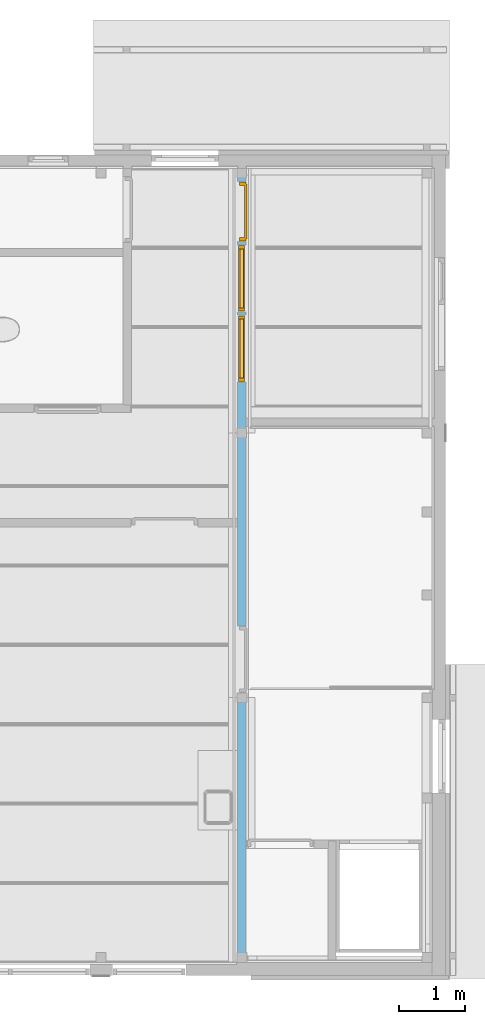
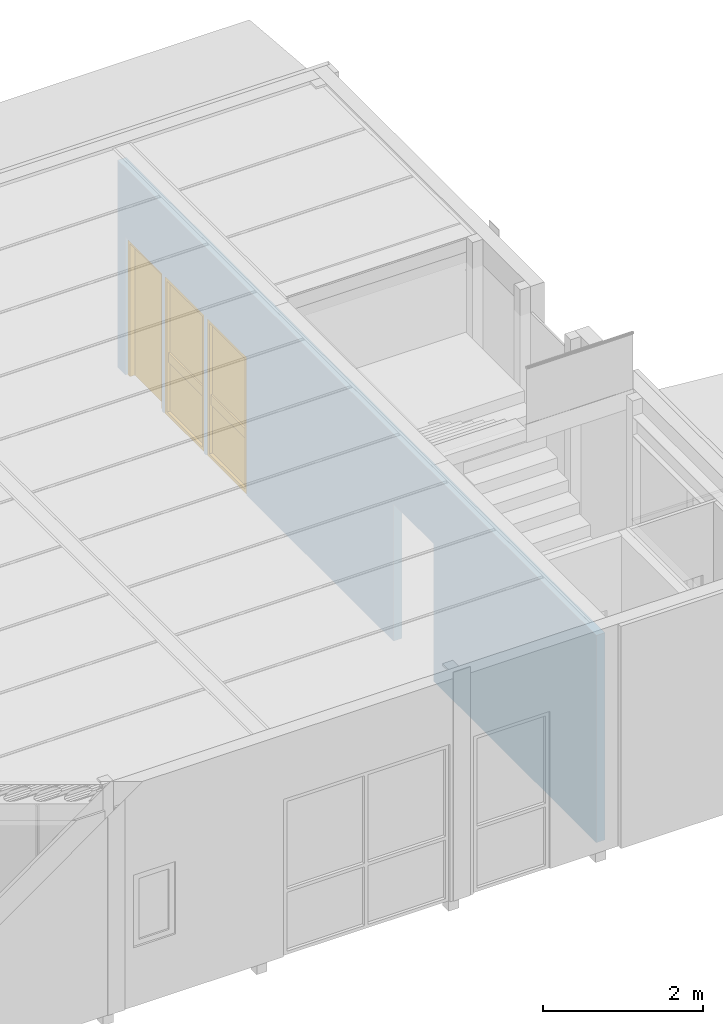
# One storey, part 36 of 45: 2 windows, 1 door, 4 openings, plus 1 element that does not belong to this part.
"""IFC2X3 building model written with IfcOpenShell, lengths in millimetres."""

from ifc_helpers import new_model, entity, si_unit, converted_unit, frame, frame_2d, origin, origin_with_axes, place, context, subcontext, project, spatial, rectangle, extrude, faceted_brep, material, layer, layer_set, layer_usage, type_object, element, fill, save


model = new_model("IFC2X3")

# Units and contexts
model_context = context("Model", 3, precision=1e-05, world=origin())
plan_context = context("Plan", 3, precision=1e-05, world=origin())
body_context = subcontext(model_context, "Body", "Model", "MODEL_VIEW")
ifc_project = project(units=[si_unit("LENGTHUNIT", "METRE", prefix="MILLI"), converted_unit("PLANEANGLEUNIT", "DEGREE", entity("IfcPlaneAngleMeasure", 0.0174532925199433), si_unit("PLANEANGLEUNIT", "RADIAN"), dimensions=[0, 0, 0, 0, 0, 0, 0]), si_unit("AREAUNIT", "SQUARE_METRE"), si_unit("VOLUMEUNIT", "CUBIC_METRE")], contexts=[model_context, plan_context])

# Building, storey
building_placement = place(None, origin())
building = spatial("IfcBuilding", under=ifc_project, at=building_placement, Name="HEKF Administrasjonbygg", CompositionType="ELEMENT")
storey_placement = place(building_placement, frame((0.0, 0.0, 6500.0), z_axis=(0.0, 0.0, 1.0), x_axis=(1.0, 0.0, 0.0)))
storey = spatial("IfcBuildingStorey", under=building, at=storey_placement, Name="Plan 1", CompositionType="ELEMENT", Elevation=6500.0)

# Wall, openings, windows, door
ifc_material_1 = material(Name="gips")
ifc_layer_1 = layer(ifc_material_1, 13.0)
ifc_material_2 = material(Name="riegel stål 100")
ifc_layer_2 = layer(ifc_material_2, 100.0)
ifc_material_3 = material(Name="gips")
ifc_layer_3 = layer(ifc_material_3, 13.0)
ifc_layer_set = layer_set([ifc_layer_1, ifc_layer_2, ifc_layer_3])
ifc_layer_usage = layer_usage(ifc_layer_set, "AXIS2", "POSITIVE", 0.0)
wall_placement = place(storey_placement, frame((27188.53680645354, -12000.0, 0.0), z_axis=(0.0, 0.0, 1.0), x_axis=(0.0, 1.0, 0.0)))
wall = element("IfcWallStandardCase", 1, at=wall_placement, inside=storey, material=ifc_layer_usage, context=body_context, shape_type="SweptSolid", body=[
    extrude(rectangle(XDim=12000.0, YDim=126.0, at=frame_2d((6000.0, 63.0), x_axis=(1.0, 0.0))), origin_with_axes(), (0.0, 0.0, 1.0), 3170.0),
])
opening_1_placement = place(wall_placement, frame((9830.0, 0.0, 0.0), z_axis=(0.0, 1.0, 0.0), x_axis=(0.0, 0.0, 1.0)))
opening_1 = element("IfcOpeningElement", 2, at=opening_1_placement, cuts=wall, Name="GF001", ObjectType="Opening", context=body_context, shape_type="SweptSolid", body=[
    extrude(rectangle(XDim=2110.0, YDim=1010.0, at=frame_2d((1055.0, 505.0), x_axis=(1.0, 0.0))), origin_with_axes(), (0.0, 0.0, 1.0), 126.0),
])
opening_2_placement = place(wall_placement, frame((8770.0, 0.0, 0.0), z_axis=(0.0, 1.0, 0.0), x_axis=(0.0, 0.0, 1.0)))
opening_2 = element("IfcOpeningElement", 3, at=opening_2_placement, cuts=wall, Name="GF002", ObjectType="Opening", context=body_context, shape_type="SweptSolid", body=[
    extrude(rectangle(XDim=2110.0, YDim=1010.0, at=frame_2d((1055.0, 505.0), x_axis=(1.0, 0.0))), origin_with_axes(), (0.0, 0.0, 1.0), 126.0),
])
opening_3_placement = place(wall_placement, frame((10890.0, 0.0, 0.0), z_axis=(0.0, 1.0, 0.0), x_axis=(0.0, 0.0, 1.0)))
opening_3 = element("IfcOpeningElement", 4, at=opening_3_placement, cuts=wall, Name="Door opening", ObjectType="Opening", context=body_context, shape_type="SweptSolid", body=[
    extrude(rectangle(XDim=2110.0, YDim=910.0, at=frame_2d((1055.0, 455.0), x_axis=(1.0, 0.0))), origin_with_axes(), (0.0, 0.0, 1.0), 126.0),
])
opening_4_placement = place(wall_placement, frame((4075.0, 0.0, 0.0), z_axis=(0.0, 1.0, 0.0), x_axis=(0.0, 0.0, 1.0)))
element("IfcOpeningElement", 5, at=opening_4_placement, cuts=wall, Name="Door opening", ObjectType="Opening", context=body_context, shape_type="SweptSolid", body=[
    extrude(rectangle(XDim=2100.0, YDim=1010.0, at=frame_2d((1050.0, 505.0), x_axis=(1.0, 0.0))), origin_with_axes(), (0.0, 0.0, 1.0), 126.0),
])
ifc_material_4 = material()
window_style_1 = type_object("IfcWindowStyle", Name="IV001", ConstructionType="NOTDEFINED", OperationType="USERDEFINED", ParameterTakesPrecedence=False, Sizeable=False)
window_1_placement = place(opening_1_placement, frame((0.0, 0.0, 0.0), z_axis=(1.0, 0.0, 0.0), x_axis=(0.0, 1.0, 0.0)))
window_1 = element("IfcWindow", 6, at=window_1_placement, inside=storey, type_object=window_style_1, material=ifc_material_4, Name="IV001", OverallHeight=2110.0, OverallWidth=1010.0, context=body_context, shape_type="Brep", body=[
    faceted_brep([(10.00000000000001, 19.99999999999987, 2100.0), (60.00000000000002, 19.99999999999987, 2100.0), (60.00000000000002, 20.0, -2.816687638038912e-15), (10.00000000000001, 20.0, -2.816687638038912e-15), (10.0, 112.0, 2.816687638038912e-15), (60.00000000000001, 112.0, 2.816687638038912e-15), (60.00000000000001, 111.9999999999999, 2100.0), (10.0, 111.9999999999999, 2100.0), (10.00000000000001, 20.0, -2.816687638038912e-15), (10.0, 112.0, 2.816687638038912e-15), (10.0, 111.9999999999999, 2100.0), (10.00000000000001, 19.99999999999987, 2100.0), (60.00000000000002, 20.0, -2.816687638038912e-15), (60.00000000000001, 112.0, 2.816687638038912e-15), (10.0, 112.0, 2.816687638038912e-15), (10.00000000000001, 20.0, -2.816687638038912e-15), (60.00000000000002, 19.99999999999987, 2100.0), (60.00000000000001, 111.9999999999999, 2100.0), (60.00000000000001, 112.0, 2.816687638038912e-15), (60.00000000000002, 20.0, -2.816687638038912e-15), (10.00000000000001, 19.99999999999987, 2100.0), (10.0, 111.9999999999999, 2100.0), (60.00000000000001, 111.9999999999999, 2100.0), (60.00000000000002, 19.99999999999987, 2100.0)], [[[0, 1, 2, 3]], [[4, 5, 6, 7]], [[8, 9, 10, 11]], [[12, 13, 14, 15]], [[16, 17, 18, 19]], [[20, 21, 22, 23]]], orient=[[False], [False], [False], [False], [False], [False]]),
    faceted_brep([(950.0000000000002, 19.99999999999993, 2100.0), (1000.0, 19.99999999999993, 2100.0), (1000.0, 20.00000000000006, -2.816687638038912e-15), (950.0000000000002, 20.00000000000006, -2.816687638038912e-15), (950.0000000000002, 112.0000000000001, 2.816687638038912e-15), (1000.0, 112.0000000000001, 2.816687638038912e-15), (1000.0, 111.9999999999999, 2100.0), (950.0000000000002, 111.9999999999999, 2100.0), (950.0000000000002, 20.00000000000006, -2.816687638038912e-15), (950.0000000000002, 112.0000000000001, 2.816687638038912e-15), (950.0000000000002, 111.9999999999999, 2100.0), (950.0000000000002, 19.99999999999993, 2100.0), (1000.0, 20.00000000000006, -2.816687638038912e-15), (1000.0, 112.0000000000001, 2.816687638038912e-15), (950.0000000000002, 112.0000000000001, 2.816687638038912e-15), (950.0000000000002, 20.00000000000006, -2.816687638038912e-15), (1000.0, 19.99999999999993, 2100.0), (1000.0, 111.9999999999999, 2100.0), (1000.0, 112.0000000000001, 2.816687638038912e-15), (1000.0, 20.00000000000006, -2.816687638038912e-15), (950.0000000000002, 19.99999999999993, 2100.0), (950.0000000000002, 111.9999999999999, 2100.0), (1000.0, 111.9999999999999, 2100.0), (1000.0, 19.99999999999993, 2100.0)], [[[0, 1, 2, 3]], [[4, 5, 6, 7]], [[8, 9, 10, 11]], [[12, 13, 14, 15]], [[16, 17, 18, 19]], [[20, 21, 22, 23]]], orient=[[False], [False], [False], [False], [False], [False]]),
    faceted_brep([(60.00000000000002, 20.0, 50.0), (950.0000000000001, 20.00000000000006, 50.0), (950.0000000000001, 20.00000000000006, -2.816687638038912e-15), (60.00000000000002, 20.0, -2.816687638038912e-15), (60.00000000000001, 112.0, 2.816687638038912e-15), (950.0000000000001, 112.0000000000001, 2.816687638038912e-15), (950.0000000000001, 112.0000000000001, 50.00000000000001), (60.00000000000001, 112.0, 50.00000000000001), (60.00000000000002, 20.0, -2.816687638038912e-15), (60.00000000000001, 112.0, 2.816687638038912e-15), (60.00000000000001, 112.0, 50.00000000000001), (60.00000000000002, 20.0, 50.0), (950.0000000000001, 20.00000000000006, -2.816687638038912e-15), (950.0000000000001, 112.0000000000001, 2.816687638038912e-15), (60.00000000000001, 112.0, 2.816687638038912e-15), (60.00000000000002, 20.0, -2.816687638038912e-15), (950.0000000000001, 20.00000000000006, 50.0), (950.0000000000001, 112.0000000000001, 50.00000000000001), (950.0000000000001, 112.0000000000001, 2.816687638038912e-15), (950.0000000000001, 20.00000000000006, -2.816687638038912e-15), (60.00000000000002, 20.0, 50.0), (60.00000000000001, 112.0, 50.00000000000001), (950.0000000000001, 112.0000000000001, 50.00000000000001), (950.0000000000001, 20.00000000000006, 50.0)], [[[0, 1, 2, 3]], [[4, 5, 6, 7]], [[8, 9, 10, 11]], [[12, 13, 14, 15]], [[16, 17, 18, 19]], [[20, 21, 22, 23]]], orient=[[False], [False], [False], [False], [False], [False]]),
    faceted_brep([(60.00000000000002, 19.99999999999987, 2100.000000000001), (950.0000000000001, 19.99999999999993, 2100.000000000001), (950.0000000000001, 19.99999999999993, 2050.000000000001), (60.00000000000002, 19.99999999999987, 2050.000000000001), (60.00000000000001, 111.9999999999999, 2050.000000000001), (950.0000000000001, 111.9999999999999, 2050.000000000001), (950.0000000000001, 111.9999999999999, 2100.000000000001), (60.00000000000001, 111.9999999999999, 2100.000000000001), (60.00000000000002, 19.99999999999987, 2050.000000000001), (60.00000000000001, 111.9999999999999, 2050.000000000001), (60.00000000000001, 111.9999999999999, 2100.000000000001), (60.00000000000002, 19.99999999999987, 2100.000000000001), (950.0000000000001, 19.99999999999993, 2050.000000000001), (950.0000000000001, 111.9999999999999, 2050.000000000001), (60.00000000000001, 111.9999999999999, 2050.000000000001), (60.00000000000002, 19.99999999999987, 2050.000000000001), (950.0000000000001, 19.99999999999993, 2100.000000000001), (950.0000000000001, 111.9999999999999, 2100.000000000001), (950.0000000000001, 111.9999999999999, 2050.000000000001), (950.0000000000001, 19.99999999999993, 2050.000000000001), (60.00000000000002, 19.99999999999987, 2100.000000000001), (60.00000000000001, 111.9999999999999, 2100.000000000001), (950.0000000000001, 111.9999999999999, 2100.000000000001), (950.0000000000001, 19.99999999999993, 2100.000000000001)], [[[0, 1, 2, 3]], [[4, 5, 6, 7]], [[8, 9, 10, 11]], [[12, 13, 14, 15]], [[16, 17, 18, 19]], [[20, 21, 22, 23]]], orient=[[False], [False], [False], [False], [False], [False]]),
    faceted_brep([(60.00000000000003, 40.99999999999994, 950.0), (950.0000000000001, 41.0, 950.0), (950.0000000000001, 41.00000000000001, 800.0), (60.00000000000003, 40.99999999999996, 800.0), (60.00000000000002, 90.99999999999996, 800.0), (950.0000000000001, 91.00000000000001, 800.0), (950.0000000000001, 91.0, 950.0), (60.00000000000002, 90.99999999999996, 950.0), (60.00000000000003, 40.99999999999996, 800.0), (60.00000000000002, 90.99999999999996, 800.0), (60.00000000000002, 90.99999999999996, 950.0), (60.00000000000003, 40.99999999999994, 950.0), (950.0000000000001, 41.00000000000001, 800.0), (950.0000000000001, 91.00000000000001, 800.0), (60.00000000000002, 90.99999999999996, 800.0), (60.00000000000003, 40.99999999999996, 800.0), (950.0000000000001, 41.0, 950.0), (950.0000000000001, 91.0, 950.0), (950.0000000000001, 91.00000000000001, 800.0), (950.0000000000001, 41.00000000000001, 800.0), (60.00000000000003, 40.99999999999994, 950.0), (60.00000000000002, 90.99999999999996, 950.0), (950.0000000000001, 91.0, 950.0), (950.0000000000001, 41.0, 950.0)], [[[0, 1, 2, 3]], [[4, 5, 6, 7]], [[8, 9, 10, 11]], [[12, 13, 14, 15]], [[16, 17, 18, 19]], [[20, 21, 22, 23]]], orient=[[False], [False], [False], [False], [False], [False]]),
    faceted_brep([(60.00000000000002, 66.0, 50.0), (60.00000000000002, 65.99999999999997, 800.0), (950.0000000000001, 66.00000000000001, 800.0), (950.0000000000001, 66.00000000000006, 50.0), (60.00000000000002, 67.0, 50.0), (950.0000000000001, 67.00000000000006, 50.0), (950.0000000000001, 67.00000000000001, 800.0), (60.00000000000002, 66.99999999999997, 800.0), (60.00000000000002, 66.0, 50.0), (60.00000000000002, 67.0, 50.0), (60.00000000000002, 66.99999999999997, 800.0), (60.00000000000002, 65.99999999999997, 800.0), (60.00000000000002, 65.99999999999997, 800.0), (60.00000000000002, 66.99999999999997, 800.0), (950.0000000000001, 67.00000000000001, 800.0), (950.0000000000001, 66.00000000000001, 800.0), (950.0000000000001, 66.00000000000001, 800.0), (950.0000000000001, 67.00000000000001, 800.0), (950.0000000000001, 67.00000000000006, 50.0), (950.0000000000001, 66.00000000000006, 50.0), (950.0000000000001, 66.00000000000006, 50.0), (950.0000000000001, 67.00000000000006, 50.0), (60.00000000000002, 67.0, 50.0), (60.00000000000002, 66.0, 50.0)], [[[0, 1, 2, 3]], [[4, 5, 6, 7]], [[8, 9, 10, 11]], [[12, 13, 14, 15]], [[16, 17, 18, 19]], [[20, 21, 22, 23]]], orient=[[False], [False], [False], [False], [False], [False]]),
    faceted_brep([(60.00000000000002, 65.99999999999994, 950.0000000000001), (60.00000000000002, 65.99999999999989, 2050.000000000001), (950.0000000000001, 65.99999999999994, 2050.000000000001), (950.0000000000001, 66.0, 950.0000000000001), (60.00000000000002, 66.99999999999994, 950.0000000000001), (950.0000000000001, 67.0, 950.0000000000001), (950.0000000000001, 66.99999999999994, 2050.000000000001), (60.00000000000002, 66.99999999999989, 2050.000000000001), (60.00000000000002, 65.99999999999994, 950.0000000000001), (60.00000000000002, 66.99999999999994, 950.0000000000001), (60.00000000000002, 66.99999999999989, 2050.000000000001), (60.00000000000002, 65.99999999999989, 2050.000000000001), (60.00000000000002, 65.99999999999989, 2050.000000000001), (60.00000000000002, 66.99999999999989, 2050.000000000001), (950.0000000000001, 66.99999999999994, 2050.000000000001), (950.0000000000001, 65.99999999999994, 2050.000000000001), (950.0000000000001, 65.99999999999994, 2050.000000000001), (950.0000000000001, 66.99999999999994, 2050.000000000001), (950.0000000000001, 67.0, 950.0000000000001), (950.0000000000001, 66.0, 950.0000000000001), (950.0000000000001, 66.0, 950.0000000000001), (950.0000000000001, 67.0, 950.0000000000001), (60.00000000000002, 66.99999999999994, 950.0000000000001), (60.00000000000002, 65.99999999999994, 950.0000000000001)], [[[0, 1, 2, 3]], [[4, 5, 6, 7]], [[8, 9, 10, 11]], [[12, 13, 14, 15]], [[16, 17, 18, 19]], [[20, 21, 22, 23]]], orient=[[False], [False], [False], [False], [False], [False]]),
])
fill(opening_1, window_1)
ifc_material_5 = material()
window_style_2 = type_object("IfcWindowStyle", Name="IV002", ConstructionType="NOTDEFINED", OperationType="USERDEFINED", ParameterTakesPrecedence=False, Sizeable=False)
window_2_placement = place(opening_2_placement, frame((0.0, 0.0, 0.0), z_axis=(1.0, 0.0, 0.0), x_axis=(0.0, 1.0, 0.0)))
window_2 = element("IfcWindow", 7, at=window_2_placement, inside=storey, type_object=window_style_2, material=ifc_material_5, Name="IV002", OverallHeight=2110.0, OverallWidth=1010.0, context=body_context, shape_type="Brep", body=[
    faceted_brep([(1000.0, 19.99999999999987, 2100.0), (1000.0, 20.0, -2.816687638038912e-15), (950.0, 20.0, -2.816687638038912e-15), (950.0, 19.99999999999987, 2100.0), (1000.0, 112.0, 2.816687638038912e-15), (1000.0, 111.9999999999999, 2100.0), (950.0, 111.9999999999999, 2100.0), (950.0, 112.0, 2.816687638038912e-15), (1000.0, 20.0, -2.816687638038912e-15), (1000.0, 19.99999999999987, 2100.0), (1000.0, 111.9999999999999, 2100.0), (1000.0, 112.0, 2.816687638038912e-15), (950.0, 20.0, -2.816687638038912e-15), (1000.0, 20.0, -2.816687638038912e-15), (1000.0, 112.0, 2.816687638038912e-15), (950.0, 112.0, 2.816687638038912e-15), (950.0, 19.99999999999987, 2100.0), (950.0, 20.0, -2.816687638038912e-15), (950.0, 112.0, 2.816687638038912e-15), (950.0, 111.9999999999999, 2100.0), (1000.0, 19.99999999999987, 2100.0), (950.0, 19.99999999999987, 2100.0), (950.0, 111.9999999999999, 2100.0), (1000.0, 111.9999999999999, 2100.0)], [[[0, 1, 2, 3]], [[4, 5, 6, 7]], [[8, 9, 10, 11]], [[12, 13, 14, 15]], [[16, 17, 18, 19]], [[20, 21, 22, 23]]], orient=[[False], [False], [False], [False], [False], [False]]),
    faceted_brep([(60.0, 19.99999999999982, 2100.0), (60.0, 19.99999999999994, -2.816687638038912e-15), (10.0, 19.99999999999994, -2.816687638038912e-15), (10.0, 19.99999999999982, 2100.0), (60.0, 111.9999999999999, 2.816687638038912e-15), (60.0, 111.9999999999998, 2100.0), (10.0, 111.9999999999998, 2100.0), (10.0, 111.9999999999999, 2.816687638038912e-15), (60.0, 19.99999999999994, -2.816687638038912e-15), (60.0, 19.99999999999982, 2100.0), (60.0, 111.9999999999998, 2100.0), (60.0, 111.9999999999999, 2.816687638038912e-15), (10.0, 19.99999999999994, -2.816687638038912e-15), (60.0, 19.99999999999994, -2.816687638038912e-15), (60.0, 111.9999999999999, 2.816687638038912e-15), (10.0, 111.9999999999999, 2.816687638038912e-15), (10.0, 19.99999999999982, 2100.0), (10.0, 19.99999999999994, -2.816687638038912e-15), (10.0, 111.9999999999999, 2.816687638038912e-15), (10.0, 111.9999999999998, 2100.0), (60.0, 19.99999999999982, 2100.0), (10.0, 19.99999999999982, 2100.0), (10.0, 111.9999999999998, 2100.0), (60.0, 111.9999999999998, 2100.0)], [[[0, 1, 2, 3]], [[4, 5, 6, 7]], [[8, 9, 10, 11]], [[12, 13, 14, 15]], [[16, 17, 18, 19]], [[20, 21, 22, 23]]], orient=[[False], [False], [False], [False], [False], [False]]),
    faceted_brep([(950.0, 20.0, 50.0), (950.0, 20.0, -2.816687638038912e-15), (60.00000000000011, 19.99999999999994, -2.816687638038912e-15), (60.00000000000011, 19.99999999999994, 50.0), (950.0, 112.0, 2.816687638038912e-15), (950.0, 112.0, 50.00000000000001), (60.00000000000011, 111.9999999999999, 50.00000000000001), (60.00000000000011, 111.9999999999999, 2.816687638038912e-15), (950.0, 20.0, -2.816687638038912e-15), (950.0, 20.0, 50.0), (950.0, 112.0, 50.00000000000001), (950.0, 112.0, 2.816687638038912e-15), (60.00000000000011, 19.99999999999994, -2.816687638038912e-15), (950.0, 20.0, -2.816687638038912e-15), (950.0, 112.0, 2.816687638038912e-15), (60.00000000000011, 111.9999999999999, 2.816687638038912e-15), (60.00000000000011, 19.99999999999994, 50.0), (60.00000000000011, 19.99999999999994, -2.816687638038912e-15), (60.00000000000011, 111.9999999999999, 2.816687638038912e-15), (60.00000000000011, 111.9999999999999, 50.00000000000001), (950.0, 20.0, 50.0), (60.00000000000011, 19.99999999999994, 50.0), (60.00000000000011, 111.9999999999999, 50.00000000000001), (950.0, 112.0, 50.00000000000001)], [[[0, 1, 2, 3]], [[4, 5, 6, 7]], [[8, 9, 10, 11]], [[12, 13, 14, 15]], [[16, 17, 18, 19]], [[20, 21, 22, 23]]], orient=[[False], [False], [False], [False], [False], [False]]),
    faceted_brep([(950.0, 19.99999999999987, 2100.000000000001), (950.0, 19.99999999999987, 2050.000000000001), (60.00000000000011, 19.99999999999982, 2050.000000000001), (60.00000000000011, 19.99999999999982, 2100.000000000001), (950.0, 111.9999999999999, 2050.000000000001), (950.0, 111.9999999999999, 2100.000000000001), (60.00000000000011, 111.9999999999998, 2100.000000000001), (60.00000000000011, 111.9999999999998, 2050.000000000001), (950.0, 19.99999999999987, 2050.000000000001), (950.0, 19.99999999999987, 2100.000000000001), (950.0, 111.9999999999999, 2100.000000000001), (950.0, 111.9999999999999, 2050.000000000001), (60.00000000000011, 19.99999999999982, 2050.000000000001), (950.0, 19.99999999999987, 2050.000000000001), (950.0, 111.9999999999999, 2050.000000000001), (60.00000000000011, 111.9999999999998, 2050.000000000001), (60.00000000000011, 19.99999999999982, 2100.000000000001), (60.00000000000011, 19.99999999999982, 2050.000000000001), (60.00000000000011, 111.9999999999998, 2050.000000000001), (60.00000000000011, 111.9999999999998, 2100.000000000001), (950.0, 19.99999999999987, 2100.000000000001), (60.00000000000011, 19.99999999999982, 2100.000000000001), (60.00000000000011, 111.9999999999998, 2100.000000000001), (950.0, 111.9999999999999, 2100.000000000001)], [[[0, 1, 2, 3]], [[4, 5, 6, 7]], [[8, 9, 10, 11]], [[12, 13, 14, 15]], [[16, 17, 18, 19]], [[20, 21, 22, 23]]], orient=[[False], [False], [False], [False], [False], [False]]),
    faceted_brep([(950.0, 40.99999999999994, 950.0), (950.0, 40.99999999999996, 800.0), (60.00000000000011, 40.9999999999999, 800.0), (60.00000000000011, 40.99999999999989, 950.0), (950.0, 90.99999999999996, 800.0), (950.0, 90.99999999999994, 950.0), (60.00000000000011, 90.99999999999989, 950.0), (60.00000000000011, 90.9999999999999, 800.0), (950.0, 40.99999999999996, 800.0), (950.0, 40.99999999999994, 950.0), (950.0, 90.99999999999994, 950.0), (950.0, 90.99999999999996, 800.0), (60.00000000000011, 40.9999999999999, 800.0), (950.0, 40.99999999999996, 800.0), (950.0, 90.99999999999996, 800.0), (60.00000000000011, 90.9999999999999, 800.0), (60.00000000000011, 40.99999999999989, 950.0), (60.00000000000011, 40.9999999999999, 800.0), (60.00000000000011, 90.9999999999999, 800.0), (60.00000000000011, 90.99999999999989, 950.0), (950.0, 40.99999999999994, 950.0), (60.00000000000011, 40.99999999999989, 950.0), (60.00000000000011, 90.99999999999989, 950.0), (950.0, 90.99999999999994, 950.0)], [[[0, 1, 2, 3]], [[4, 5, 6, 7]], [[8, 9, 10, 11]], [[12, 13, 14, 15]], [[16, 17, 18, 19]], [[20, 21, 22, 23]]], orient=[[False], [False], [False], [False], [False], [False]]),
    faceted_brep([(950.0, 66.0, 50.0), (60.00000000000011, 65.99999999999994, 50.0), (60.00000000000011, 65.9999999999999, 800.0), (950.0, 65.99999999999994, 800.0), (950.0, 67.0, 50.0), (950.0, 66.99999999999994, 800.0), (60.00000000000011, 66.9999999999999, 800.0), (60.00000000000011, 66.99999999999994, 50.0), (950.0, 66.0, 50.0), (950.0, 67.0, 50.0), (60.00000000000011, 66.99999999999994, 50.0), (60.00000000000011, 65.99999999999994, 50.0), (60.00000000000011, 65.99999999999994, 50.0), (60.00000000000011, 66.99999999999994, 50.0), (60.00000000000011, 66.9999999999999, 800.0), (60.00000000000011, 65.9999999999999, 800.0), (60.00000000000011, 65.9999999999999, 800.0), (60.00000000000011, 66.9999999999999, 800.0), (950.0, 66.99999999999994, 800.0), (950.0, 65.99999999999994, 800.0), (950.0, 65.99999999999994, 800.0), (950.0, 66.99999999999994, 800.0), (950.0, 67.0, 50.0), (950.0, 66.0, 50.0)], [[[0, 1, 2, 3]], [[4, 5, 6, 7]], [[8, 9, 10, 11]], [[12, 13, 14, 15]], [[16, 17, 18, 19]], [[20, 21, 22, 23]]], orient=[[False], [False], [False], [False], [False], [False]]),
    faceted_brep([(950.0, 65.99999999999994, 950.0000000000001), (60.00000000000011, 65.99999999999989, 950.0000000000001), (60.00000000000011, 65.99999999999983, 2050.000000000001), (950.0, 65.99999999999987, 2050.000000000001), (950.0, 66.99999999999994, 950.0000000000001), (950.0, 66.99999999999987, 2050.000000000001), (60.00000000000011, 66.99999999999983, 2050.000000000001), (60.00000000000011, 66.99999999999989, 950.0000000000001), (950.0, 65.99999999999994, 950.0000000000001), (950.0, 66.99999999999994, 950.0000000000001), (60.00000000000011, 66.99999999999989, 950.0000000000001), (60.00000000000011, 65.99999999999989, 950.0000000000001), (60.00000000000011, 65.99999999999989, 950.0000000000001), (60.00000000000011, 66.99999999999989, 950.0000000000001), (60.00000000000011, 66.99999999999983, 2050.000000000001), (60.00000000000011, 65.99999999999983, 2050.000000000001), (60.00000000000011, 65.99999999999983, 2050.000000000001), (60.00000000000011, 66.99999999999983, 2050.000000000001), (950.0, 66.99999999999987, 2050.000000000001), (950.0, 65.99999999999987, 2050.000000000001), (950.0, 65.99999999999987, 2050.000000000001), (950.0, 66.99999999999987, 2050.000000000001), (950.0, 66.99999999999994, 950.0000000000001), (950.0, 65.99999999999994, 950.0000000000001)], [[[0, 1, 2, 3]], [[4, 5, 6, 7]], [[8, 9, 10, 11]], [[12, 13, 14, 15]], [[16, 17, 18, 19]], [[20, 21, 22, 23]]], orient=[[False], [False], [False], [False], [False], [False]]),
])
fill(opening_2, window_2)
ifc_material_6 = material()
door_style = type_object("IfcDoorStyle", Name="D027", ConstructionType="NOTDEFINED", OperationType="USERDEFINED", ParameterTakesPrecedence=False, Sizeable=False)
door_placement = place(opening_3_placement, frame((0.0, 0.0, 0.0), z_axis=(1.0, 0.0, 0.0), x_axis=(0.0, 1.0, 0.0)))
door = element("IfcDoor", 8, at=door_placement, inside=storey, type_object=door_style, material=ifc_material_6, Name="D027", OverallHeight=2110.0, OverallWidth=910.0, context=body_context, shape_type="Brep", body=[
    faceted_brep([(10.0, 96.00000000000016, 2090.0), (10.0, 96.00000000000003, -2.816687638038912e-15), (60.0, 96.00000000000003, -2.816687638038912e-15), (60.0, 96.00000000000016, 2090.0), (10.0, 4.000000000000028, 2.816687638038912e-15), (10.0, 4.000000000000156, 2090.0), (60.0, 4.000000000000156, 2090.0), (60.0, 4.000000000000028, 2.816687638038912e-15), (10.0, 96.00000000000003, -2.816687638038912e-15), (10.0, 96.00000000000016, 2090.0), (10.0, 4.000000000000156, 2090.0), (10.0, 4.000000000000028, 2.816687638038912e-15), (60.0, 96.00000000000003, -2.816687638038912e-15), (10.0, 96.00000000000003, -2.816687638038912e-15), (10.0, 4.000000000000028, 2.816687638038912e-15), (60.0, 4.000000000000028, 2.816687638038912e-15), (60.0, 96.00000000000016, 2090.0), (60.0, 96.00000000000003, -2.816687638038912e-15), (60.0, 4.000000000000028, 2.816687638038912e-15), (60.0, 4.000000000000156, 2090.0), (10.0, 96.00000000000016, 2090.0), (60.0, 96.00000000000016, 2090.0), (60.0, 4.000000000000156, 2090.0), (10.0, 4.000000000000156, 2090.0)], [[[0, 1, 2, 3]], [[4, 5, 6, 7]], [[8, 9, 10, 11]], [[12, 13, 14, 15]], [[16, 17, 18, 19]], [[20, 21, 22, 23]]], orient=[[False], [False], [False], [False], [False], [False]]),
    faceted_brep([(850.0, 96.00000000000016, 2090.0), (850.0, 96.00000000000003, -2.816687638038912e-15), (900.0, 96.00000000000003, -2.816687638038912e-15), (900.0, 96.00000000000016, 2090.0), (850.0, 4.000000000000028, 2.816687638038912e-15), (850.0, 4.000000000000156, 2090.0), (900.0, 4.000000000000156, 2090.0), (900.0, 4.000000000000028, 2.816687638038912e-15), (850.0, 96.00000000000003, -2.816687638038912e-15), (850.0, 96.00000000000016, 2090.0), (850.0, 4.000000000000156, 2090.0), (850.0, 4.000000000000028, 2.816687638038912e-15), (900.0, 96.00000000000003, -2.816687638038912e-15), (850.0, 96.00000000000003, -2.816687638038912e-15), (850.0, 4.000000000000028, 2.816687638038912e-15), (900.0, 4.000000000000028, 2.816687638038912e-15), (900.0, 96.00000000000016, 2090.0), (900.0, 96.00000000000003, -2.816687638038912e-15), (900.0, 4.000000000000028, 2.816687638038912e-15), (900.0, 4.000000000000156, 2090.0), (850.0, 96.00000000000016, 2090.0), (900.0, 96.00000000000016, 2090.0), (900.0, 4.000000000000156, 2090.0), (850.0, 4.000000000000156, 2090.0)], [[[0, 1, 2, 3]], [[4, 5, 6, 7]], [[8, 9, 10, 11]], [[12, 13, 14, 15]], [[16, 17, 18, 19]], [[20, 21, 22, 23]]], orient=[[False], [False], [False], [False], [False], [False]]),
    faceted_brep([(60.0, 96.00000000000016, 2090.0), (60.0, 96.00000000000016, 2040.0), (849.9999999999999, 96.00000000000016, 2040.0), (849.9999999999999, 96.00000000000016, 2090.0), (60.0, 4.000000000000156, 2040.0), (60.0, 4.000000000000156, 2090.0), (849.9999999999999, 4.000000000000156, 2090.0), (849.9999999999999, 4.000000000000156, 2040.0), (60.0, 96.00000000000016, 2040.0), (60.0, 96.00000000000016, 2090.0), (60.0, 4.000000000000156, 2090.0), (60.0, 4.000000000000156, 2040.0), (849.9999999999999, 96.00000000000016, 2040.0), (60.0, 96.00000000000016, 2040.0), (60.0, 4.000000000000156, 2040.0), (849.9999999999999, 4.000000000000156, 2040.0), (849.9999999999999, 96.00000000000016, 2090.0), (849.9999999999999, 96.00000000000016, 2040.0), (849.9999999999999, 4.000000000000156, 2040.0), (849.9999999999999, 4.000000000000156, 2090.0), (60.0, 96.00000000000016, 2090.0), (849.9999999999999, 96.00000000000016, 2090.0), (849.9999999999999, 4.000000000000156, 2090.0), (60.0, 4.000000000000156, 2090.0)], [[[0, 1, 2, 3]], [[4, 5, 6, 7]], [[8, 9, 10, 11]], [[12, 13, 14, 15]], [[16, 17, 18, 19]], [[20, 21, 22, 23]]], orient=[[False], [False], [False], [False], [False], [False]]),
    faceted_brep([(40.00000000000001, 24.00000000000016, 2060.0), (40.00000000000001, 24.00000000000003, 1.592040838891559e-15), (870.0, 24.00000000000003, 1.592040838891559e-15), (870.0, 24.00000000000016, 2060.0), (40.00000000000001, -15.99999999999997, 4.041334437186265e-15), (40.00000000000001, -15.99999999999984, 2060.0), (870.0, -15.99999999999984, 2060.0), (870.0, -15.99999999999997, 4.041334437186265e-15), (40.00000000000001, 24.00000000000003, 1.592040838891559e-15), (40.00000000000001, 24.00000000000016, 2060.0), (40.00000000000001, -15.99999999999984, 2060.0), (40.00000000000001, -15.99999999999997, 4.041334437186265e-15), (870.0, 24.00000000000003, 1.592040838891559e-15), (40.00000000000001, 24.00000000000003, 1.592040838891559e-15), (40.00000000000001, -15.99999999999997, 4.041334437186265e-15), (870.0, -15.99999999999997, 4.041334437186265e-15), (870.0, 24.00000000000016, 2060.0), (870.0, 24.00000000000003, 1.592040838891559e-15), (870.0, -15.99999999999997, 4.041334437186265e-15), (870.0, -15.99999999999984, 2060.0), (40.00000000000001, 24.00000000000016, 2060.0), (870.0, 24.00000000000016, 2060.0), (870.0, -15.99999999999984, 2060.0), (40.00000000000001, -15.99999999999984, 2060.0)], [[[0, 1, 2, 3]], [[4, 5, 6, 7]], [[8, 9, 10, 11]], [[12, 13, 14, 15]], [[16, 17, 18, 19]], [[20, 21, 22, 23]]], orient=[[False], [False], [False], [False], [False], [False]]),
])
fill(opening_3, door)

save(model, "model.ifc")
